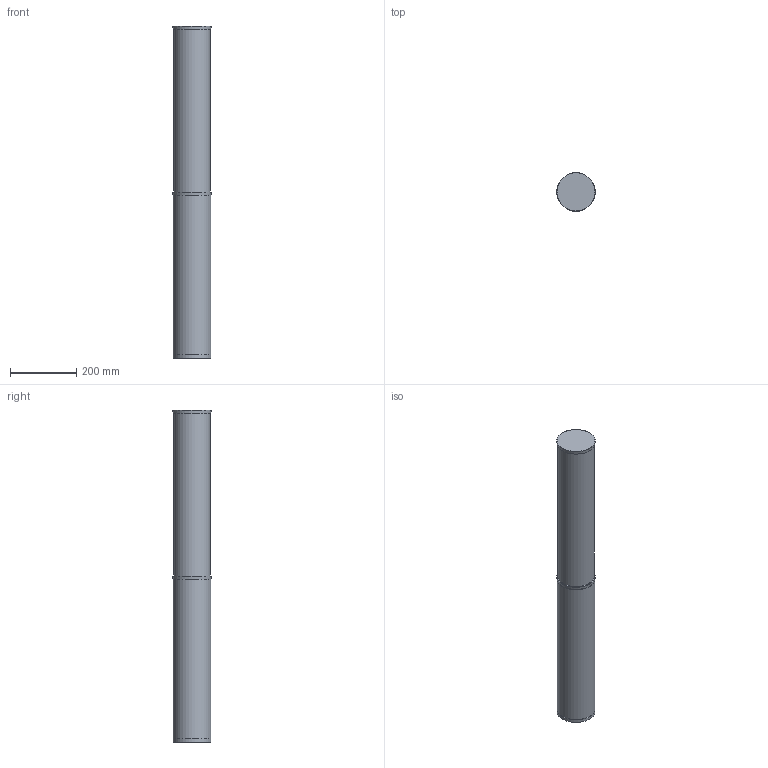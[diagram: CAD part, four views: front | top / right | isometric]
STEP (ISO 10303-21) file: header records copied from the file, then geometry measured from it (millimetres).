
FILE_DESCRIPTION(/* description */ (''),/* implementation_level */ '2;1');
FILE_NAME(/* name */ 'Lester 1000mm.step',/* time_stamp */ '2026-07-23T23:15:25+03:00',/* author */ (''),/* organization */ (''),/* preprocessor_version */ 'ST-DEVELOPER v20.1',/* originating_system */ 'Autodesk Translation Framework v15.8.0.0',/* authorisation */ '');
FILE_SCHEMA (('AUTOMOTIVE_DESIGN { 1 0 10303 214 3 1 1 }'));
Length unit declared in the file: millimetre
Products named in the file (1): Lester 1000mm
Bounding box: 115.89 x 115.89 x 1000 mm (x, y, z)
Volume: 9852926.3 mm3; surface area: 451474.6 mm2
Topology: 12 solids, 12 shells, 121 faces, 281 edges, 186 vertices
Faces by surface type: cylinder 64, plane 50, torus 5, cone 2
Full cylindrical faces by diameter (mm): 5 x3, 8 x1, 12 x3, 15 x2, 104.365 x2, 110 x1, 113.5 x1, 114 x3
Entity records: 3588 total; most frequent: DIRECTION 668, CARTESIAN_POINT 589, ORIENTED_EDGE 562, EDGE_CURVE 281, AXIS2_PLACEMENT_3D 265, VERTEX_POINT 186, EDGE_LOOP 153, CIRCLE 143
